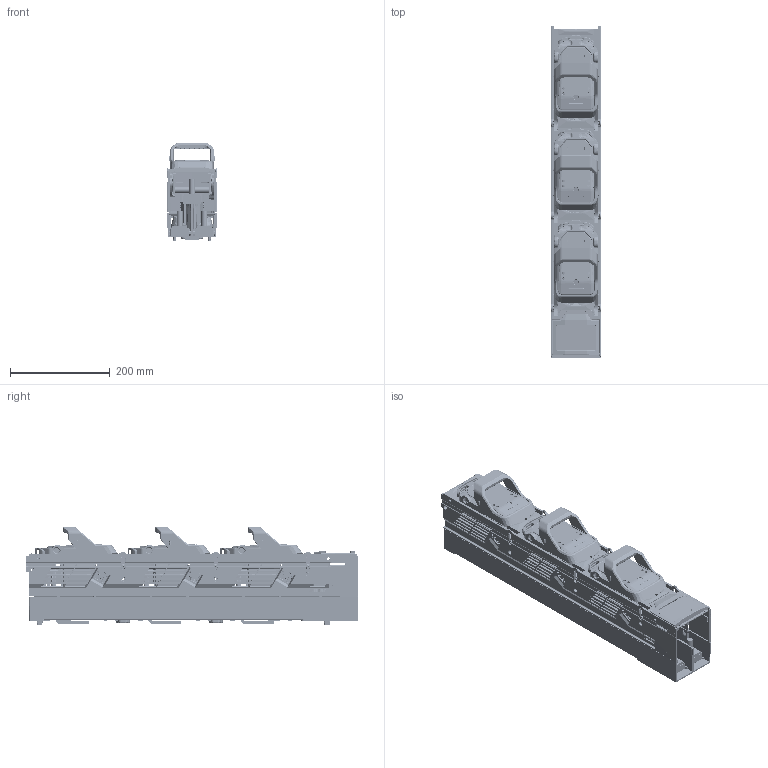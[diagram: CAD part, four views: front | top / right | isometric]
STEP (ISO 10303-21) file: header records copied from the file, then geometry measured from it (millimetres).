
FILE_DESCRIPTION((''),'2;1');
FILE_NAME('2TZD_505_6001_ASM','2024-06-17T14:30:10',('liuhui'),(''),'CREO PARAMETRIC BY PTC INC, 2020354','CREO PARAMETRIC BY PTC INC, 2020354','');
FILE_SCHEMA(('CONFIG_CONTROL_DESIGN'));
Products named in the file (33): 8TZD_022_6283; 8TZD_557_6170; 8TZD_580_6127; 8TZD_557_6171; 8TZD_289_6027; 8TZD_580_6126; 5TZD_558_6658_ASM; 8TZD_580_6128; 8TZD_580_6129; 8TZD_580_6130; 5TZD_558_6659_ASM; 8TZD_271_6029; GB_T9074_4-M5X22; GB_T5783-M12X35; 8TZD_300_6292_2; 8TZD_005_6332; 8TZD_005_6333; 8TZD_744_6026; 8TZD_742_6503; 5TZD_740_6070_ASM; 8TZD_100_6066; 8TZD_315_6744; 8TZD_271_6025; 8TZD_271_6024; 8TZD_253_6322; 8TZD_594_6004; 5TZD_558_6657_AF1_ASM; 5TZD_558_6657_AF2_ASM; 5TZD_558_6657_AF3_ASM; 8TZD_315_6743; 8TZD_270_6039; 8TZD_860_6709; 2TZD_505_6001_ASM
Assembly tree (114 placements, depth 3):
  2TZD_505_6001_ASM
    8TZD_022_6283
    5TZD_558_6658_ASM  x3
      8TZD_557_6170
      8TZD_580_6127
      8TZD_557_6171
      8TZD_289_6027
      8TZD_580_6126
    8TZD_580_6128
    8TZD_580_6129
    5TZD_558_6659_ASM
      8TZD_580_6130
      8TZD_557_6170  x2
      8TZD_557_6171  x2
      8TZD_289_6027  x4
    8TZD_557_6170  x4
    8TZD_557_6171  x4
    8TZD_289_6027  x8
    8TZD_271_6029  x3
    GB_T9074_4-M5X22  x24
    GB_T5783-M12X35  x3
    8TZD_300_6292_2  x3
    8TZD_005_6332
    8TZD_005_6333
    5TZD_740_6070_ASM  x3
      8TZD_744_6026
      8TZD_742_6503
    5TZD_558_6657_AF1_ASM
      8TZD_100_6066
      8TZD_315_6744
      8TZD_271_6025
      8TZD_271_6024  x2
      8TZD_253_6322
      8TZD_594_6004
    5TZD_558_6657_AF2_ASM
      8TZD_100_6066
      8TZD_315_6744
      8TZD_271_6025
      8TZD_271_6024  x2
      8TZD_253_6322
      8TZD_594_6004
    5TZD_558_6657_AF3_ASM
      8TZD_100_6066
      8TZD_315_6744
      8TZD_271_6025
      8TZD_271_6024  x2
      8TZD_253_6322
      8TZD_594_6004
    8TZD_315_6743
    8TZD_270_6039  x3
    8TZD_860_6709
Bounding box: 99 x 664.11 x 196.65 mm (x, y, z)
Volume: 3283155.8 mm3; surface area: 2016783.9 mm2
Topology: 158 solids, 278 shells, 36898 faces, 97280 edges, 60657 vertices
Faces by surface type: plane 20083, cylinder 9790, bspline 3044, torus 1309, cone 1187, sphere 908, extrusion 571, revolution 6
Entity records: 618884 total; most frequent: CARTESIAN_POINT 195825, ORIENTED_EDGE 93544, DIRECTION 78878, EDGE_CURVE 46772, VECTOR 31072, LINE 30595, VERTEX_POINT 29587, AXIS2_PLACEMENT_3D 23902
